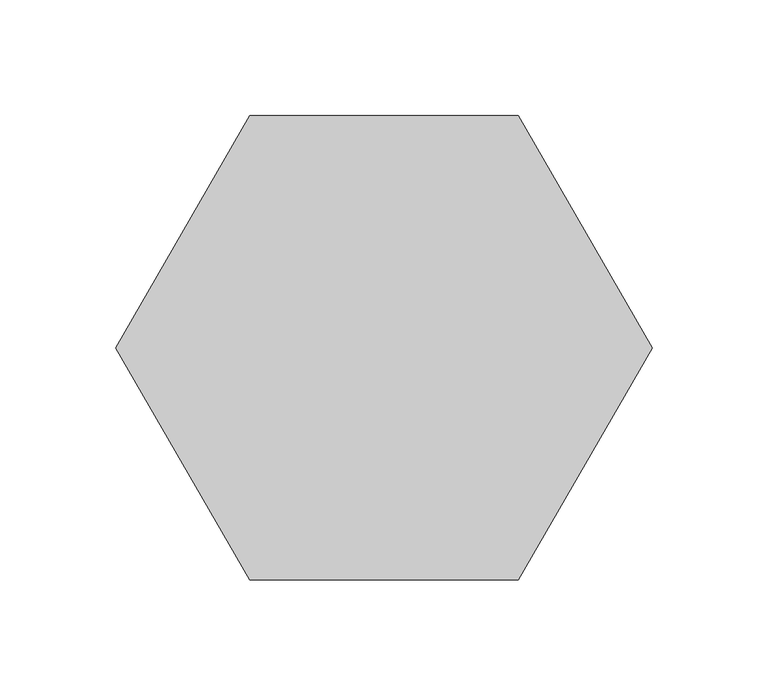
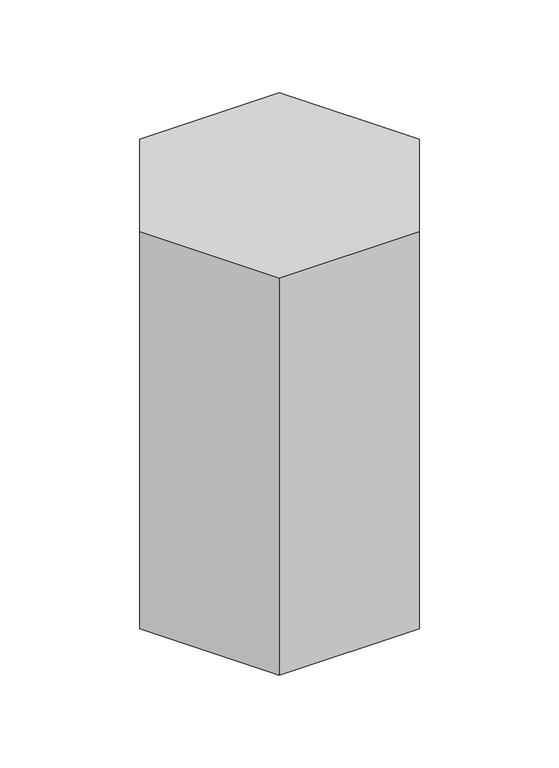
"""IFC4 building model written with IfcOpenShell, lengths in millimetres: geographic element geometry, Enscape AssetDefinition - Garbage Can 003 : Enscape AssetDefinition - Garbage Can 003."""

from ifc_helpers import new_model, si_unit, origin, place, context, project, spatial, triangles, source, transform, mapped, element, save


def geographic_element_36948085(model_context):
    return source(origin(), model_context, "Body", "Tessellation", [
        triangles([(115.666668, 0.0, 347.4243241), (57.8333295, 100.1702756, 0.0), (-8e-07, -1.1e-06, 0.0), (115.666668, 0.0, 0.0), (57.8333295, 100.1702756, 347.4243241), (57.8333249, -100.1702756, 0.0), (57.8333249, -100.1702756, 347.4243241), (-3.1e-06, -4.6e-06, 347.4243241), (-57.8333249, -100.1702756, 0.0), (-57.8333386, 100.1702665, 0.0), (-57.8333386, 100.1702665, 347.4243241), (-115.666668, -1.01e-05, 347.4243241), (-57.8333249, -100.1702756, 347.4243241), (-115.666668, -1.01e-05, 0.0)], [[10, 14, 12], [14, 13, 12], [14, 9, 13], [9, 7, 13], [13, 7, 8], [12, 13, 8], [11, 12, 8], [10, 12, 11], [2, 10, 11], [9, 14, 3], [14, 10, 3], [10, 2, 3], [9, 6, 7], [6, 9, 3], [7, 1, 8], [6, 1, 7], [5, 11, 8], [1, 5, 8], [2, 11, 5], [6, 4, 1], [4, 2, 5], [4, 6, 3], [2, 4, 3], [4, 5, 1]]),
    ])


if __name__ == "__main__":
    model = new_model("IFC4")
    model_context = context("Model", 3, world=origin())
    ifc_project = project(units=[si_unit("LENGTHUNIT", "METRE", prefix="MILLI")], contexts=[model_context])
    site = spatial("IfcSite", under=ifc_project)
    building = spatial("IfcBuilding", under=site)
    placement = place(None, origin())
    geographic_element_shape = geographic_element_36948085(model_context)
    element("IfcGeographicElement", 1, ObjectType="Enscape AssetDefinition - Garbage Can 003 : Enscape AssetDefinition - Garbage Can 003", at=placement, inside=building, context=model_context, shape_type="MappedRepresentation", body=[
        mapped(geographic_element_shape, transform((0.0, 0.0, 0.0), x_axis=(1.0, 0.0, 0.0), y_axis=(0.0, 1.0, 0.0), z_axis=(0.0, 0.0, 1.0))),
    ])
    save(model, "model.ifc")
